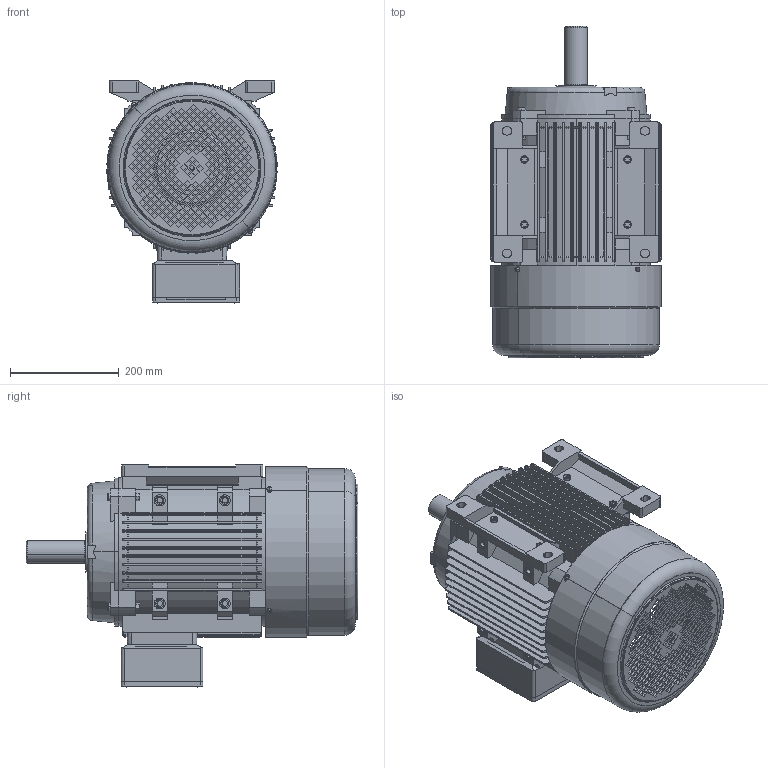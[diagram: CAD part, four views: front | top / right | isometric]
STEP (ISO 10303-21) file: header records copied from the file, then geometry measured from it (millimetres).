
FILE_DESCRIPTION (( 'STEP AP203' ), '1' );
FILE_NAME ('160M-B3.STEP', '2023-02-21T10:08:24', ( '' ), ( '' ), 'SwSTEP 2.0', 'SolidWorks 2018', '' );
FILE_SCHEMA (( 'CONFIG_CONTROL_DESIGN' ));
Length unit declared in the file: millimetre
Products named in the file (12): 160瑞欶; 160B3裔; 112-蹟隊; 160M; 160 蹟譫; 160 蚐猾; 160 蹟邡; 160粣芛; 160諉盄碟裔; 160諉盄碟釱; 160菁褐M; 160M-B3
Assembly tree (27 placements, depth 2):
  160M-B3
    160M
    160B3裔
    160 蹟邡  x8
    160 蹟譫  x4
    160粣芛
    160 蚐猾
    160諉盄碟釱
    160諉盄碟裔
    112-蹟隊  x6
    160菁褐M  x2
    160瑞欶
Bounding box: 313.76 x 611 x 408.73 mm (x, y, z)
Volume: 5183402 mm3; surface area: 2040804.3 mm2
Topology: 27 solids, 27 shells, 2921 faces, 8228 edges, 5435 vertices
Faces by surface type: plane 2241, cylinder 538, cone 95, torus 35, sphere 12
Entity records: 88134 total; most frequent: CARTESIAN_POINT 16997, ORIENTED_EDGE 14874, DIRECTION 13218, EDGE_CURVE 7437, VECTOR 6118, LINE 6118, VERTEX_POINT 4935, AXIS2_PLACEMENT_3D 3550
